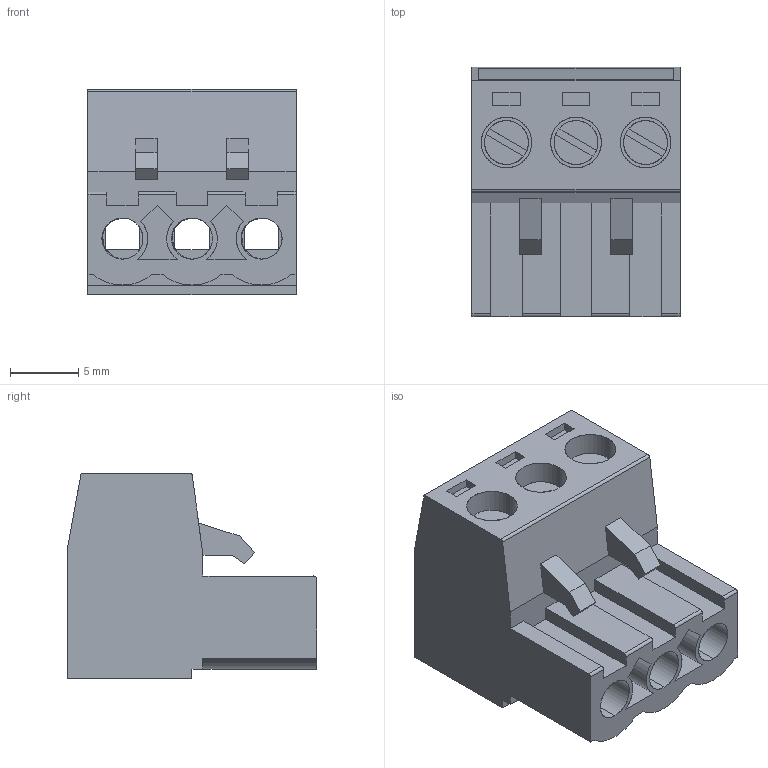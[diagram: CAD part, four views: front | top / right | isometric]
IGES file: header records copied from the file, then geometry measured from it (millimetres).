
Start section: SolidWorks IGES file using analytic representation for surfaces
Bounding box: 15.2 x 18.2 x 15 mm (x, y, z)
Surface area: 2437.7 mm2 (no closed solid volume)
Topology: 0 solids, 0 shells, 155 faces, 1386 edges, 1386 vertices
Faces by surface type: bspline 122, revolution 33
